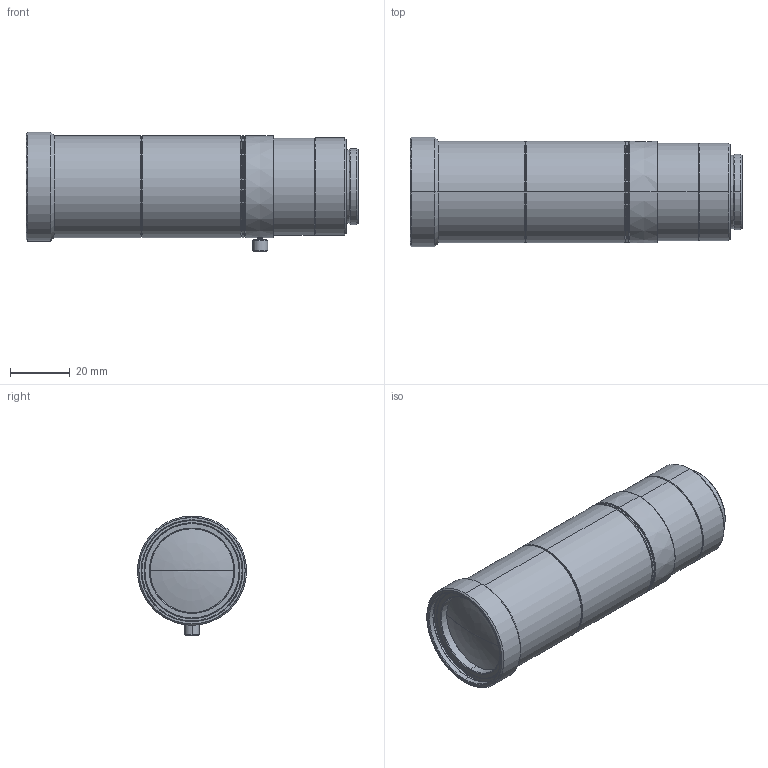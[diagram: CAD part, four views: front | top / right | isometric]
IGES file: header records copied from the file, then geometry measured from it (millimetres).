
Start section: SolidWorks IGES file using analytic representation for surfaces
Global section: file name: C:\Users\tsuji_vst\Documents\【図面】\_3D\00 VST\VS-TCT\TCT10-65\VS-TCT1-65_S.IGS; native system: SolidWorks 2016; preprocessor: SolidWorks 2016; author: tsuji_vst; date: 160830.161341; units: millimetre
Bounding box: 110.97 x 36.5 x 40.05 mm (x, y, z)
Surface area: 16150.3 mm2 (no closed solid volume)
Topology: 0 solids, 0 shells, 124 faces, 2192 edges, 2191 vertices
Faces by surface type: revolution 106, bspline 18
